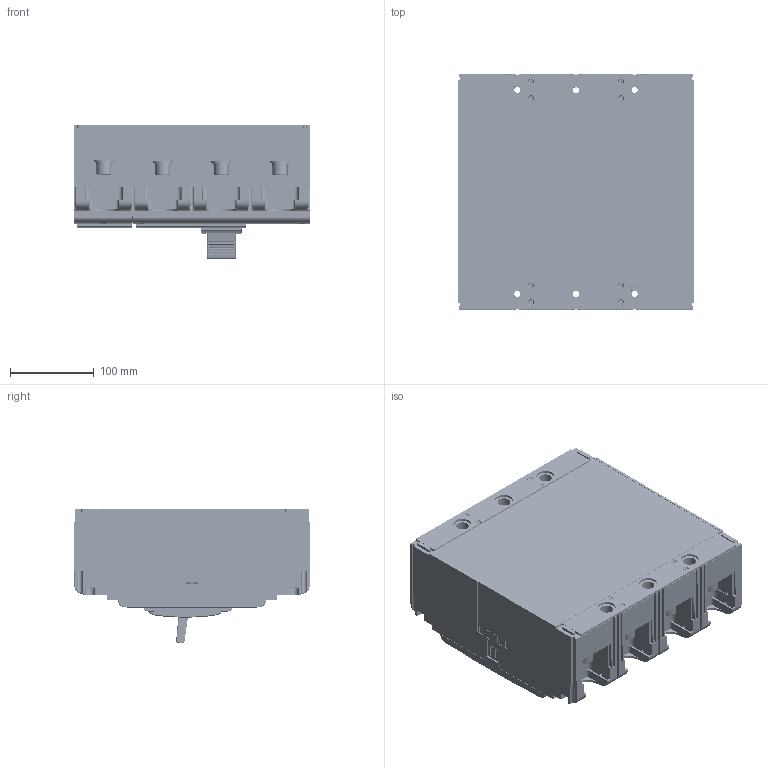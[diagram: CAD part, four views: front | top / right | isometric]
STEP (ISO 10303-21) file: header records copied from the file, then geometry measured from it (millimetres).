
FILE_DESCRIPTION((''),'2;1');
FILE_NAME('TGM1N-800-4P_ASM_ASM','2019-03-15T',('Administrator'),(''),'PRO/ENGINEER BY PARAMETRIC TECHNOLOGY CORPORATION, 2017170','PRO/ENGINEER BY PARAMETRIC TECHNOLOGY CORPORATION, 2017170','');
FILE_SCHEMA(('CONFIG_CONTROL_DESIGN'));
Products named in the file (50): 5TZD-024-1070_ASM_7_1; PRT0008; ASM0004_ASM; ASM0003_ASM; ASM0002_ASM; ASM0001_ASM; PRT0009; ASM0005_ASM; PRT0010; PRT0011; PRT0012; PRT0013; 5TZD-740-1030_ASM_4_1; 5TZD-253-1033_ASM_6_1; PRT0014; PRT0015; PRT0016; PRT0017; PRT0018; PRT0019; PRT0020; PRT0021; PRT0022; PRT0023; PRT0024; 8TZD-821-1026_1_1; 5TZD-024-1087_2_1; 5TZD-024-1088_ASM_2_ASM_1_ASM; 8TZD_315_3121_12_1; 8TZD_315_3112_11_1; 8TZD_315_3122_8_1; 8TZD_253_3027_13_1; 630-4P-CP_ASM_4_ASM_1_ASM; 2TZD-259-1044_ASM_17_ASM_1_ASM; 8TZD-585-1096_2_1; GB-T97_1_1; GB-T93_1_1; GB-T70-1-2008_1_1; 8TZD-585-1124_1_1; 8TZD-585-1097_1_1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
Assembly tree (123 placements, depth 8):
  TGM1N-800-4P_ASM_ASM
    TGM1N-800-4P_ASM_1_ASM
      2TZD-259-1044_ASM_17_ASM_1_ASM
        5TZD-024-1070_ASM_7_1
        ASM0001_ASM
          ASM0002_ASM  x3
            ASM0003_ASM
              ASM0004_ASM
                PRT0008
        ASM0005_ASM  x3
          PRT0009
        PRT0010  x3
        PRT0011  x3
        PRT0012  x3
        PRT0013
        5TZD-740-1030_ASM_4_1  x3
        5TZD-253-1033_ASM_6_1
        PRT0014  x6
        PRT0015  x4
        PRT0016  x6
        PRT0017  x3
        PRT0018  x8
        PRT0019  x3
        PRT0020  x12
        PRT0021  x2
        PRT0022  x6
        PRT0023  x6
        PRT0024  x6
        8TZD-821-1026_1_1
        5TZD-024-1088_ASM_2_ASM_1_ASM
          5TZD-024-1087_2_1
        630-4P-CP_ASM_4_ASM_1_ASM
          8TZD_315_3121_12_1
          8TZD_315_3112_11_1
          8TZD_315_3122_8_1
          8TZD_253_3027_13_1
      8TZD-585-1096_2_1
      GB-T97_1_1  x2
      GB-T93_1_1  x2
      GB-T70-1-2008_1_1  x2
      8TZD-585-1124_1_1
      8TZD-585-1097_1_1
      3GB-T9074-8-037_1_1  x4
      2GB-T41-004_1_1  x2
      8TZD-024-1065_1  x2
      3GB-T846-007_1_1  x4
      PRT0025
      8TZD-325-1011_1_1
      8TZD-742-1164_1_1
      8TZD-325-1010_1_1
Bounding box: 282 x 281 x 160.87 mm (x, y, z)
Volume: 6962998.8 mm3; surface area: 1188099.1 mm2
Topology: 109 solids, 174 shells, 8211 faces, 22043 edges, 14147 vertices
Faces by surface type: plane 4760, cylinder 1887, torus 748, cone 491, bspline 162, sphere 153, extrusion 10
Entity records: 203831 total; most frequent: CARTESIAN_POINT 54531, ORIENTED_EDGE 31354, DIRECTION 30637, EDGE_CURVE 15677, VECTOR 10557, LINE 10547, VERTEX_POINT 10220, AXIS2_PLACEMENT_3D 10040
